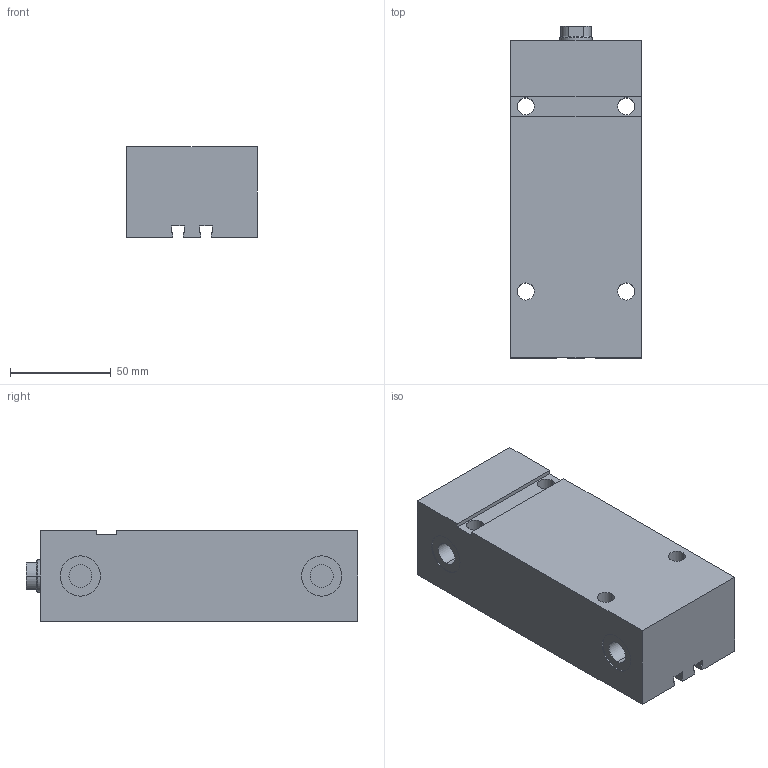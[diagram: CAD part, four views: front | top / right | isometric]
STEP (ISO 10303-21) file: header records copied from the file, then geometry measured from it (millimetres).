
FILE_DESCRIPTION (( 'STEP AP203' ), '1' );
FILE_NAME ('GERMA_Blockzylinder_702-025-100.STEP', '2016-08-01T17:02:45', ( '' ), ( '' ), 'SwSTEP 2.0', 'SolidWorks 2015', '' );
FILE_SCHEMA (( 'CONFIG_CONTROL_DESIGN' ));
Length unit declared in the file: millimetre
Products named in the file (3): Kolben_MT 70x-025_Kolben_MT DU.25-Hub100-IG; GH-700-025_GH-702-025-100; GERMA_Blockzylinder_702-025-100
Assembly tree (2 placements, depth 2):
  GERMA_Blockzylinder_702-025-100
    GH-700-025_GH-702-025-100
    Kolben_MT 70x-025_Kolben_MT DU.25-Hub100-IG
Bounding box: 65 x 165 x 45 mm (x, y, z)
Volume: 408168.5 mm3; surface area: 71141.1 mm2
Topology: 2 solids, 2 shells, 96 faces, 226 edges, 142 vertices
Faces by surface type: plane 43, cylinder 39, cone 14
Entity records: 3042 total; most frequent: DIRECTION 511, CARTESIAN_POINT 463, ORIENTED_EDGE 440, EDGE_CURVE 220, AXIS2_PLACEMENT_3D 190, VERTEX_POINT 142, VECTOR 131, LINE 131
